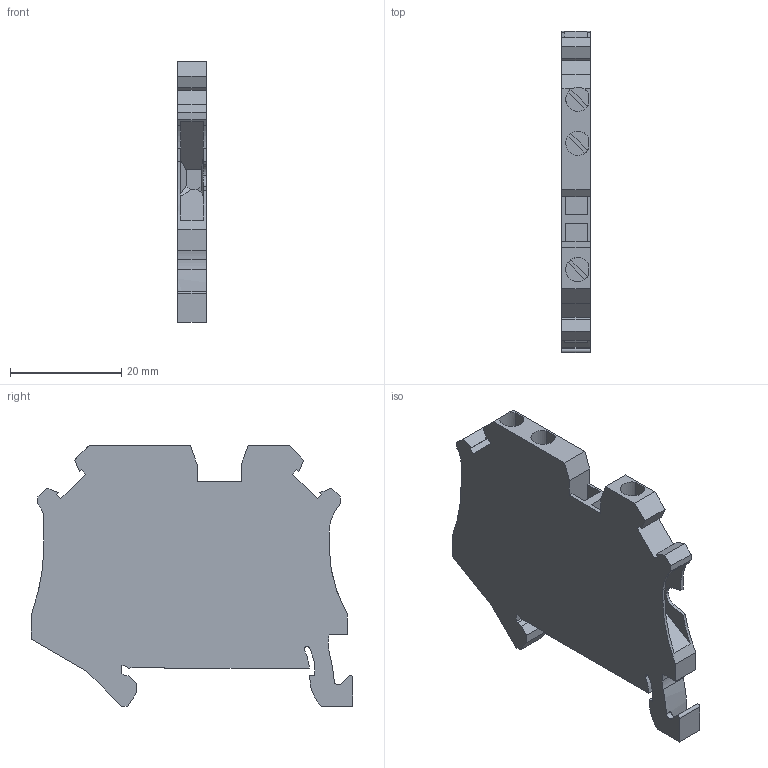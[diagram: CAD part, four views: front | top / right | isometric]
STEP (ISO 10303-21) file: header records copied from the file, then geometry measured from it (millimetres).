
FILE_DESCRIPTION(('TFLEX Exchange Step'),'2;1');
FILE_NAME('11000061_КНВ_2,5-3-С.stp', '2024-04-04T14:21:35+03:00',('apanin'),('Unknown organisation'),'TFLEX Exchange 2023.2','T-FLEX CAD','Unknown authorisation');
FILE_SCHEMA( ('AUTOMOTIVE_DESIGN { 1 0 10303 214 1 1 1 1 }') );
Length unit declared in the file: millimetre
Products named in the file (1): Тело_1 - UT_2.5_TWIN-select:1
Bounding box: 5.15 x 57.8 x 46.85 mm (x, y, z)
Volume: 8674.5 mm3; surface area: 6611.2 mm2
Topology: 1 solids, 1 shells, 402 faces, 1163 edges, 772 vertices
Faces by surface type: plane 208, cylinder 194
Entity records: 13400 total; most frequent: DIRECTION 2376, CARTESIAN_POINT 2340, ORIENTED_EDGE 2326, EDGE_CURVE 1163, AXIS2_PLACEMENT_3D 811, VERTEX_POINT 772, VECTOR 754, LINE 754
